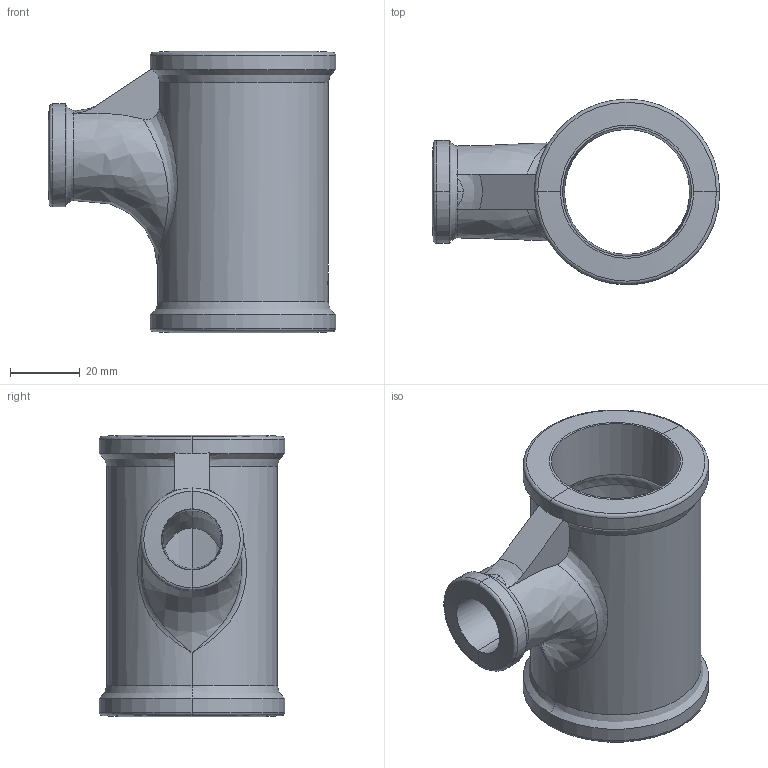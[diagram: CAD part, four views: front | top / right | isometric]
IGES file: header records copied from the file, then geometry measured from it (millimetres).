
Global section: file name: No Iges File Name specified; native system: AutoDesk Inventor R12.0; preprocessor: AutoDesk Inventor Iges Exporter R12.0; date: 20090917.103729; units: millimetre
Bounding box: 82.65 x 53.3 x 81 mm (x, y, z)
Volume: 70145.4 mm3; surface area: 29968.5 mm2
Topology: 1 solids, 1 shells, 72 faces, 206 edges, 135 vertices
Faces by surface type: bspline 22, plane 17, cylinder 11, revolution 10, cone 6, torus 6
